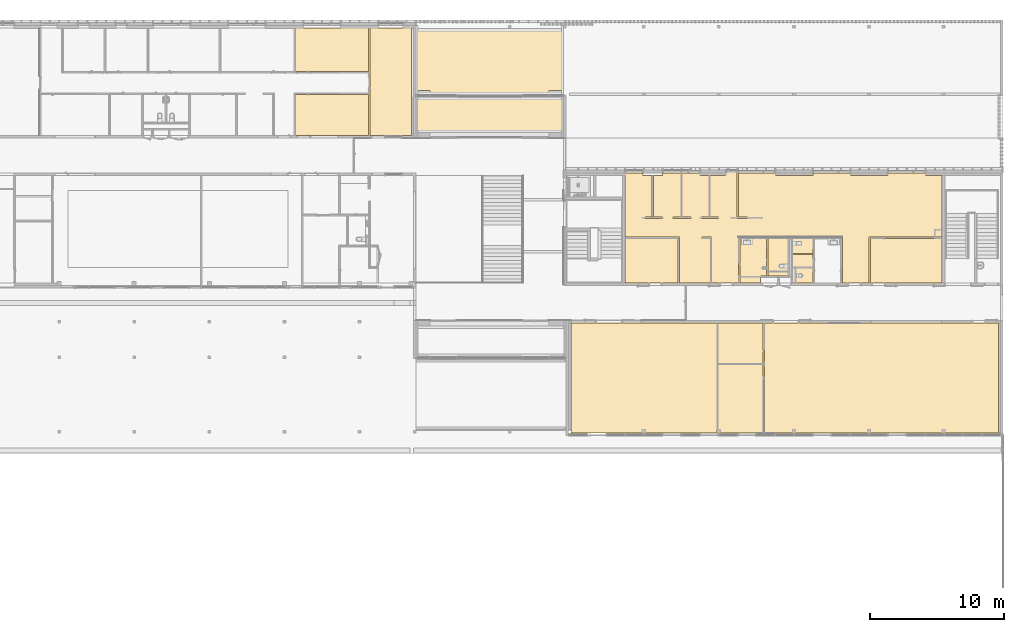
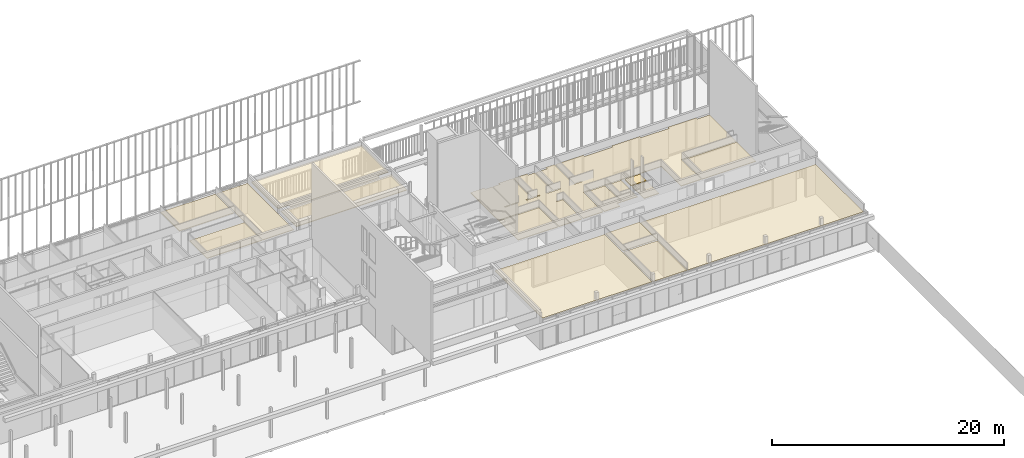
# One storey, part 233 of 240: 15 coverings.
"""IFC2X3 building model written with IfcOpenShell, lengths in centimetres."""

from ifc_helpers import new_model, entity, si_unit, converted_unit, derived_unit, direction, frame, frame_2d, origin, origin_2d_with_axis, place, context, subcontext, project, spatial, polyline, rectangle, outline, extrude, material, layer, layer_set, layer_usage, type_object, element, save


model = new_model("IFC2X3")

# Units and contexts
model_context = context("Model", 3, precision=0.001, world=origin(), true_north=direction((6.12303176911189e-17, 1.0)))
body_context = subcontext(model_context, "Body", "Model", "MODEL_VIEW")
ifc_project = project(units=[si_unit("LENGTHUNIT", "METRE", prefix="CENTI"), si_unit("AREAUNIT", "SQUARE_METRE"), si_unit("VOLUMEUNIT", "CUBIC_METRE"), converted_unit("PLANEANGLEUNIT", "DEGREE", entity("IfcRatioMeasure", 0.0174532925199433), si_unit("PLANEANGLEUNIT", "RADIAN"), dimensions=[0, 0, 0, 0, 0, 0, 0]), si_unit("MASSUNIT", "GRAM", prefix="KILO"), derived_unit("MASSDENSITYUNIT", [(si_unit("MASSUNIT", "GRAM", prefix="KILO"), 1), (si_unit("LENGTHUNIT", "METRE"), -3)]), si_unit("TIMEUNIT", "SECOND"), si_unit("FREQUENCYUNIT", "HERTZ"), si_unit("THERMODYNAMICTEMPERATUREUNIT", "DEGREE_CELSIUS"), derived_unit("THERMALTRANSMITTANCEUNIT", [(si_unit("MASSUNIT", "GRAM", prefix="KILO"), 1), (si_unit("THERMODYNAMICTEMPERATUREUNIT", "KELVIN"), -1), (si_unit("TIMEUNIT", "SECOND"), -3)]), derived_unit("VOLUMETRICFLOWRATEUNIT", [(si_unit("LENGTHUNIT", "METRE"), 3), (si_unit("TIMEUNIT", "SECOND"), -1)]), si_unit("ELECTRICCURRENTUNIT", "AMPERE"), si_unit("ELECTRICVOLTAGEUNIT", "VOLT"), si_unit("POWERUNIT", "WATT"), si_unit("FORCEUNIT", "NEWTON", prefix="KILO"), si_unit("ILLUMINANCEUNIT", "LUX"), si_unit("LUMINOUSFLUXUNIT", "LUMEN"), si_unit("LUMINOUSINTENSITYUNIT", "CANDELA"), derived_unit("USERDEFINED", [(si_unit("MASSUNIT", "GRAM", prefix="KILO"), -1), (si_unit("LENGTHUNIT", "METRE"), -2), (si_unit("TIMEUNIT", "SECOND"), 3), (si_unit("LUMINOUSFLUXUNIT", "LUMEN"), 1)]), derived_unit("LINEARVELOCITYUNIT", [(si_unit("LENGTHUNIT", "METRE"), 1), (si_unit("TIMEUNIT", "SECOND"), -1)]), si_unit("PRESSUREUNIT", "PASCAL"), derived_unit("USERDEFINED", [(si_unit("LENGTHUNIT", "METRE"), -2), (si_unit("MASSUNIT", "GRAM", prefix="KILO"), 1), (si_unit("TIMEUNIT", "SECOND"), -2)])], contexts=[model_context])

# Site, building, storey, space
site_placement = place(None, frame((-2781.94577612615, 7442.24238424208, 0.0)))
site = spatial("IfcSite", under=ifc_project, at=site_placement, Name="Default", CompositionType="ELEMENT")
building_placement = place(site_placement, origin())
building = spatial("IfcBuilding", under=site, at=building_placement, CompositionType="ELEMENT")
storey_placement = place(building_placement, origin())
storey = spatial("IfcBuildingStorey", under=building, at=storey_placement, Name="N00 - COO", CompositionType="ELEMENT", Elevation=0.0)
space_1_placement = place(building_placement, origin())
space_1 = spatial("IfcSpace", under=storey, at=space_1_placement, Name="C-6", CompositionType="ELEMENT", InteriorOrExteriorSpace="INTERNAL")

# Covering
ifc_material_1 = material(Name="00 - VIDE D'AIR")
ifc_layer_1 = layer(ifc_material_1, 5.7)
ifc_material_2 = material(Name="01 - Enduit/Plâtre - faux plafonds")
ifc_layer_2 = layer(ifc_material_2, 1.3)
ifc_layer_set = layer_set([ifc_layer_1, ifc_layer_2], Name="Plafond composé:11-Plafond 1BA13")
ifc_layer_usage_1 = layer_usage(ifc_layer_set, "AXIS3", "POSITIVE", 0.0)
covering_type_1 = type_object("IfcCoveringType", Name="Plafond composé:11-Plafond 1BA13", PredefinedType="CEILING")
covering_1_placement = place(space_1_placement, origin())
element("IfcCovering", 1, at=covering_1_placement, inside=space_1, type_object=covering_type_1, material=ifc_layer_usage_1, Name="Plafond composé:11-Plafond 1BA13", ObjectType="Plafond composé:11-Plafond 1BA13", PredefinedType="CEILING", context=body_context, shape_type="SweptSolid", body=[
    extrude(rectangle(XDim=325.0, YDim=544.000000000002, at=frame_2d((4.2632564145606e-13, -4.2632564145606e-13), x_axis=(1.0, 0.0))), frame((-5394.49987760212, -172.499999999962, 306.0), z_axis=(0.0, 0.0, 1.0), x_axis=(0.0, -1.0, 0.0)), (0.0, 0.0, 1.0), 6.99999999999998),
])

# Space
space_2_placement = place(building_placement, origin())
space_2 = spatial("IfcSpace", under=storey, at=space_2_placement, Name="C-9", CompositionType="ELEMENT", InteriorOrExteriorSpace="INTERNAL")

# Covering
ifc_layer_usage_2 = layer_usage(ifc_layer_set, "AXIS3", "POSITIVE", 0.0)
covering_type_2 = type_object("IfcCoveringType", Name="Plafond composé:11-Plafond 1BA13", PredefinedType="CEILING")
covering_2_placement = place(space_2_placement, origin())
element("IfcCovering", 2, at=covering_2_placement, inside=space_2, type_object=covering_type_2, material=ifc_layer_usage_2, Name="Plafond composé:11-Plafond 1BA13", ObjectType="Plafond composé:11-Plafond 1BA13", PredefinedType="CEILING", context=body_context, shape_type="SweptSolid", body=[
    extrude(rectangle(XDim=309.200000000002, YDim=800.048500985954, at=frame_2d((0.0, -3.12638803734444e-13), x_axis=(1.0, 0.0))), frame((-4957.89987760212, -410.024250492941, 306.0), z_axis=(0.0, 0.0, 1.0), x_axis=(-1.0, 0.0, 0.0)), (0.0, 0.0, 1.0), 6.99999999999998),
])

# Space
space_3_placement = place(building_placement, origin())
space_3 = spatial("IfcSpace", under=storey, at=space_3_placement, Name="C-7", CompositionType="ELEMENT", InteriorOrExteriorSpace="INTERNAL")

# Covering
ifc_layer_usage_3 = layer_usage(ifc_layer_set, "AXIS3", "POSITIVE", 0.0)
covering_type_3 = type_object("IfcCoveringType", Name="Plafond composé:11-Plafond 1BA13", PredefinedType="CEILING")
covering_3_placement = place(space_3_placement, origin())
element("IfcCovering", 3, at=covering_3_placement, inside=space_3, type_object=covering_type_3, material=ifc_layer_usage_3, Name="Plafond composé:11-Plafond 1BA13", ObjectType="Plafond composé:11-Plafond 1BA13", PredefinedType="CEILING", context=body_context, shape_type="SweptSolid", body=[
    extrude(rectangle(XDim=305.048500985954, YDim=544.000000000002, at=frame_2d((5.6843418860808e-14, 0.0), x_axis=(1.0, 0.0))), frame((-5394.49987760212, -657.524250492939, 306.0), z_axis=(0.0, 0.0, 1.0), x_axis=(0.0, 1.0, 0.0)), (0.0, 0.0, 1.0), 6.99999999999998),
])

# Space
space_4_placement = place(building_placement, origin())
space_4 = spatial("IfcSpace", under=storey, at=space_4_placement, Name="B-3", CompositionType="ELEMENT", InteriorOrExteriorSpace="INTERNAL")

# Covering
ifc_layer_usage_4 = layer_usage(ifc_layer_set, "AXIS3", "POSITIVE", 0.0)
covering_type_4 = type_object("IfcCoveringType", Name="Plafond composé:11-Plafond 1BA13", PredefinedType="CEILING")
covering_4_placement = place(space_4_placement, origin())
element("IfcCovering", 4, at=covering_4_placement, inside=space_4, type_object=covering_type_4, material=ifc_layer_usage_4, Name="Plafond composé:11-Plafond 1BA13", ObjectType="Plafond composé:11-Plafond 1BA13", PredefinedType="CEILING", context=body_context, shape_type="SweptSolid", body=[
    extrude(rectangle(XDim=335.799997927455, YDim=299.999999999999, at=frame_2d((2.1316282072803e-13, -2.27373675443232e-13), x_axis=(1.0, 0.0))), frame((-2347.0998786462, -2360.15656731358, 313.0)), (0.0, 0.0, 1.0), 6.99999999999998),
])

# Space
space_5_placement = place(building_placement, origin())
space_5 = spatial("IfcSpace", under=storey, at=space_5_placement, Name="C-4", CompositionType="ELEMENT", InteriorOrExteriorSpace="INTERNAL")

# Coverings
ifc_layer_usage_5 = layer_usage(ifc_layer_set, "AXIS3", "POSITIVE", 0.0)
covering_type_5 = type_object("IfcCoveringType", Name="Plafond composé:11-Plafond 1BA13", PredefinedType="CEILING")
covering_5_placement = place(space_5_placement, origin())
element("IfcCovering", 5, at=covering_5_placement, inside=space_5, type_object=covering_type_5, material=ifc_layer_usage_5, Name="Plafond composé:11-Plafond 1BA13", ObjectType="Plafond composé:11-Plafond 1BA13", PredefinedType="CEILING", context=body_context, shape_type="SweptSolid", body=[
    extrude(rectangle(XDim=330.079033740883, YDim=534.2, at=frame_2d((-6.3948846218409e-13, -2.27373675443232e-13), x_axis=(1.0, 0.0))), frame((-1112.39988284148, -1745.03951677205, 306.0), z_axis=(0.0, 0.0, 1.0), x_axis=(0.0, 1.0, 0.0)), (0.0, 0.0, 1.0), 6.99999999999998),
])
ifc_layer_usage_6 = layer_usage(ifc_layer_set, "AXIS3", "POSITIVE", 0.0)
covering_type_6 = type_object("IfcCoveringType", Name="Plafond composé:11-Plafond 1BA13", PredefinedType="CEILING")
covering_6_placement = place(building_placement, origin())
element("IfcCovering", 6, at=covering_6_placement, inside=storey, type_object=covering_type_6, material=ifc_layer_usage_6, Name="Plafond composé:11-Plafond 1BA13", ObjectType="Plafond composé:11-Plafond 1BA13", PredefinedType="CEILING", context=body_context, shape_type="SweptSolid", body=[
    extrude(outline(polyline([(36.4999999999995, -76.6930112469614), (81.5000000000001, -76.6930112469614), (81.5000000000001, 203.386022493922), (-118.0, 203.386022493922), (-118.0, -126.693011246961), (36.4999999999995, -126.693011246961), (36.4999999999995, -76.6930112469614)])), frame((-2235.99988284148, -1783.38602239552, 306.0)), (0.0, 0.0, 1.0), 6.99999999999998),
])
ifc_layer_usage_7 = layer_usage(ifc_layer_set, "AXIS3", "POSITIVE", 0.0)
covering_type_7 = type_object("IfcCoveringType", Name="Plafond composé:11-Plafond 1BA13", PredefinedType="CEILING")
covering_7_placement = place(building_placement, origin())
element("IfcCovering", 7, at=covering_7_placement, inside=storey, type_object=covering_type_7, material=ifc_layer_usage_7, Name="Plafond composé:11-Plafond 1BA13", ObjectType="Plafond composé:11-Plafond 1BA13", PredefinedType="CEILING", context=body_context, shape_type="SweptSolid", body=[
    extrude(rectangle(XDim=280.079033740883, YDim=150.0, at=frame_2d((-1.13686837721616e-13, 0.0), x_axis=(1.0, 0.0))), frame((-2069.49988284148, -1720.03951677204, 306.0), z_axis=(0.0, 0.0, 1.0), x_axis=(0.0, -1.0, 0.0)), (0.0, 0.0, 1.0), 6.99999999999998),
])

# Space
space_6_placement = place(building_placement, origin())
space_6 = spatial("IfcSpace", under=storey, at=space_6_placement, Name="C-5", CompositionType="ELEMENT", InteriorOrExteriorSpace="INTERNAL")

# Coverings
ifc_layer_usage_8 = layer_usage(ifc_layer_set, "AXIS3", "POSITIVE", 0.0)
covering_type_8 = type_object("IfcCoveringType", Name="Plafond composé:11-Plafond 1BA13", PredefinedType="CEILING")
covering_8_placement = place(space_6_placement, origin())
element("IfcCovering", 8, at=covering_8_placement, inside=space_6, type_object=covering_type_8, material=ifc_layer_usage_8, Name="Plafond composé:11-Plafond 1BA13", ObjectType="Plafond composé:11-Plafond 1BA13", PredefinedType="CEILING", context=body_context, shape_type="SweptSolid", body=[
    extrude(rectangle(XDim=149.999999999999, YDim=209.579033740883, at=frame_2d((-14.9999999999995, -11.9579033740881), x_axis=(1.0, 0.0))), frame((-1899.49988284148, -1817.24742014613, 306.0), z_axis=(0.0, 0.0, 1.0), x_axis=(-1.0, 0.0, 0.0)), (0.0, 0.0, 1.0), 6.99999999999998),
])
ifc_layer_usage_9 = layer_usage(ifc_layer_set, "AXIS3", "POSITIVE", 0.0)
covering_type_9 = type_object("IfcCoveringType", Name="Plafond composé:11-Plafond 1BA13", PredefinedType="CEILING")
covering_9_placement = place(space_6_placement, origin())
element("IfcCovering", 9, at=covering_9_placement, inside=space_6, type_object=covering_type_9, material=ifc_layer_usage_9, Name="Plafond composé:11-Plafond 1BA13", ObjectType="Plafond composé:11-Plafond 1BA13", PredefinedType="CEILING", context=body_context, shape_type="SweptSolid", body=[
    extrude(rectangle(XDim=110.5, YDim=149.999999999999, at=frame_2d((-1.06581410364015e-13, 1.06581410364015e-13), x_axis=(1.0, 0.0))), frame((-1884.49988284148, -1635.2499999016, 306.0), z_axis=(0.0, 0.0, 1.0), x_axis=(0.0, -1.0, 0.0)), (0.0, 0.0, 1.0), 6.99999999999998),
])

# Space
space_7_placement = place(building_placement, origin())
space_7 = spatial("IfcSpace", under=storey, at=space_7_placement, Name="C-14", CompositionType="ELEMENT", InteriorOrExteriorSpace="INTERNAL")

# Coverings
ifc_layer_usage_10 = layer_usage(ifc_layer_set, "AXIS3", "POSITIVE", 0.0)
covering_type_10 = type_object("IfcCoveringType", Name="Plafond composé:11-Plafond 1BA13", PredefinedType="CEILING")
covering_10_placement = place(space_7_placement, origin())
element("IfcCovering", 10, at=covering_10_placement, inside=space_7, type_object=covering_type_10, material=ifc_layer_usage_10, Name="Plafond composé:11-Plafond 1BA13", ObjectType="Plafond composé:11-Plafond 1BA13", PredefinedType="CEILING", context=body_context, shape_type="SweptSolid", body=[
    extrude(rectangle(XDim=330.079033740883, YDim=395.299999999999, at=origin_2d_with_axis()), frame((-3011.64988284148, -1745.03951677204, 306.0), z_axis=(0.0, 0.0, 1.0), x_axis=(0.0, 1.0, 0.0)), (0.0, 0.0, 1.0), 6.99999999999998),
])
ifc_layer_usage_11 = layer_usage(ifc_layer_set, "AXIS3", "POSITIVE", 0.0)
covering_type_11 = type_object("IfcCoveringType", Name="Plafond composé:11-Plafond 1BA13", PredefinedType="CEILING")
covering_11_placement = place(building_placement, origin())
element("IfcCovering", 11, at=covering_11_placement, inside=storey, type_object=covering_type_11, material=ifc_layer_usage_11, Name="Plafond composé:11-Plafond 1BA13", ObjectType="Plafond composé:11-Plafond 1BA13", PredefinedType="CEILING", context=body_context, shape_type="SweptSolid", body=[
    extrude(rectangle(XDim=821.056932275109, YDim=1743.89999684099, at=frame_2d((20.105693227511, 174.389999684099), x_axis=(1.0, 0.0))), frame((-1471.63988094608, -2600.57934022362, 306.0), z_axis=(0.0, 0.0, 1.0), x_axis=(0.0, -1.0, 0.0)), (0.0, 0.0, 1.0), 6.99999999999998),
    extrude(rectangle(XDim=335.799997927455, YDim=511.056932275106, at=frame_2d((0.0, 2.1316282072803e-13), x_axis=(1.0, 0.0))), frame((-2347.0998786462, -2775.68503345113, 306.0), z_axis=(0.0, 0.0, 1.0), x_axis=(-1.0, 0.0, 0.0)), (0.0, 0.0, 1.0), 6.99999999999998),
])
ifc_layer_usage_12 = layer_usage(ifc_layer_set, "AXIS3", "POSITIVE", 0.0)
covering_type_12 = type_object("IfcCoveringType", Name="Plafond composé:11-Plafond 1BA13", PredefinedType="CEILING")
covering_12_placement = place(building_placement, origin())
element("IfcCovering", 12, at=covering_12_placement, inside=storey, type_object=covering_type_12, material=ifc_layer_usage_12, Name="Plafond composé:11-Plafond 1BA13", ObjectType="Plafond composé:11-Plafond 1BA13", PredefinedType="CEILING", context=body_context, shape_type="SweptSolid", body=[
    extrude(outline(polyline([(-808.687879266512, 217.114027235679), (-808.687879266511, -262.885972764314), (-673.887876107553, -262.885972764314), (-673.887876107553, -242.885972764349), (-606.887876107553, -242.885972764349), (-606.887876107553, 67.1140272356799), (-660.38787926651, 67.1140272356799), (-660.38787926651, 77.1140272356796), (-530.38787926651, 77.1140272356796), (-530.38787926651, 67.1140272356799), (-596.887876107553, 67.1140272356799), (-596.887876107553, -242.885972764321), (-528.687879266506, -242.885972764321), (-528.687879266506, -262.885972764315), (-392.687879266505, -262.885972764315), (-392.687879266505, 67.1140272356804), (-450.387879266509, 67.1140272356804), (-450.387879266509, 77.1140272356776), (-316.88787926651, 77.1140272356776), (-316.88787926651, 67.1140272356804), (-382.687879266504, 67.1140272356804), (-382.687879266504, -262.885972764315), (-248.687879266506, -262.885972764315), (-248.687879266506, -242.885972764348), (-183.687879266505, -242.885972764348), (-183.687879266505, 67.114027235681), (-240.387879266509, 67.114027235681), (-240.387879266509, 77.1140272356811), (-110.387879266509, 77.1140272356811), (-110.387879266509, 67.1140272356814), (-173.687879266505, 67.1140272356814), (-173.687879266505, -242.885972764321), (-58.6878792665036, -242.885972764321), (-58.6878792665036, -267.88597276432), (26.1121238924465, -267.88597276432), (26.1121238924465, 77.1140272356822), (104.612120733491, 77.1140272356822), (104.612120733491, 67.1140272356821), (36.1121238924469, 67.1140272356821), (36.1121238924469, -262.885972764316), (311.312120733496, -262.885972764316), (311.312120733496, -242.885972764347), (591.312120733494, -242.885972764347), (591.312120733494, -262.885972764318), (871.312120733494, -262.885972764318), (871.312120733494, -242.885972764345), (1151.31212073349, -242.885972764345), (1151.31212073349, -262.88597276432), (1431.31212073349, -262.88597276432), (1431.31212073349, -242.88597276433), (1555.31212073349, -242.88597276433), (1555.31212073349, 217.114027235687), (1011.11212073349, 217.114027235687), (1011.11212073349, 557.193060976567), (811.112120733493, 557.193060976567), (811.112120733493, 217.11402723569), (36.6121207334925, 217.11402723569), (36.6121207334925, 557.193060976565), (-163.387879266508, 557.193060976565), (-163.387879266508, 217.114027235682), (-233.387879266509, 217.114027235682), (-233.387879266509, 227.114027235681), (-173.387879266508, 227.114027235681), (-173.387879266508, 557.193060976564), (-403.387879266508, 557.19306097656), (-403.387879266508, 217.114027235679), (-808.687879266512, 217.114027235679)])), frame((-2400.61200357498, -1352.88597266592, 306.0), z_axis=(0.0, 0.0, -1.0), x_axis=(1.0, 0.0, 0.0)), (0.0, 0.0, -1.0), 6.99999999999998),
])
ifc_layer_usage_13 = layer_usage(ifc_layer_set, "AXIS3", "POSITIVE", 0.0)
covering_type_13 = type_object("IfcCoveringType", Name="Plafond composé:11-Plafond 1BA13", PredefinedType="CEILING")
covering_13_placement = place(building_placement, origin())
element("IfcCovering", 13, at=covering_13_placement, inside=storey, type_object=covering_type_13, material=ifc_layer_usage_13, Name="Plafond composé:11-Plafond 1BA13", ObjectType="Plafond composé:11-Plafond 1BA13", PredefinedType="CEILING", context=body_context, shape_type="SweptSolid", body=[
    extrude(rectangle(XDim=1089.20000207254, YDim=820.156932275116, at=frame_2d((108.920000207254, 17.6156932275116), x_axis=(1.0, 0.0))), frame((-2960.67987843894, -2602.61934022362, 306.0), z_axis=(0.0, 0.0, 1.0), x_axis=(-1.0, 0.0, 0.0)), (0.0, 0.0, 1.0), 6.99999999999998),
])

# Space
space_8_placement = place(building_placement, origin())
space_8 = spatial("IfcSpace", under=storey, at=space_8_placement, Name="F-1", CompositionType="ELEMENT", InteriorOrExteriorSpace="INTERNAL")

# Covering
ifc_layer_usage_14 = layer_usage(ifc_layer_set, "AXIS3", "POSITIVE", 0.0)
covering_type_14 = type_object("IfcCoveringType", Name="Plafond composé:11-Plafond 1BA13", PredefinedType="CEILING")
covering_14_placement = place(space_8_placement, origin())
element("IfcCovering", 14, at=covering_14_placement, inside=space_8, type_object=covering_type_14, material=ifc_layer_usage_14, Name="Plafond composé:11-Plafond 1BA13", ObjectType="Plafond composé:11-Plafond 1BA13", PredefinedType="CEILING", context=body_context, shape_type="SweptSolid", body=[
    extrude(rectangle(XDim=267.499999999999, YDim=1099.99999791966, at=frame_2d((44.583333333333, -0.666667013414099), x_axis=(1.0, 0.0))), frame((-4218.66654565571, -700.881834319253, 313.0), z_axis=(0.0, 0.0, 1.0), x_axis=(0.0, 1.0, 0.0)), (0.0, 0.0, 1.0), 6.99999999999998),
])

# Space
space_9_placement = place(building_placement, origin())
space_9 = spatial("IfcSpace", under=storey, at=space_9_placement, Name="H-2 / H-4", CompositionType="ELEMENT", InteriorOrExteriorSpace="INTERNAL")

# Covering
ifc_layer_usage_15 = layer_usage(ifc_layer_set, "AXIS3", "POSITIVE", 0.0)
covering_type_15 = type_object("IfcCoveringType", Name="Plafond composé:11-Plafond 1BA13", PredefinedType="CEILING")
covering_15_placement = place(space_9_placement, origin())
element("IfcCovering", 15, at=covering_15_placement, inside=space_9, type_object=covering_type_15, material=ifc_layer_usage_15, Name="Plafond composé:11-Plafond 1BA13", ObjectType="Plafond composé:11-Plafond 1BA13", PredefinedType="CEILING", context=body_context, shape_type="SweptSolid", body=[
    extrude(outline(polyline([(-107.137125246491, -551.0), (353.411375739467, -551.0), (353.411375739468, 548.999998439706), (-107.137125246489, 548.999998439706), (-107.137125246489, 443.757045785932), (-139.137125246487, 443.757045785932), (-139.137125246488, -441.757044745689), (-107.137125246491, -441.757044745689), (-107.137125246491, -551.0)])), frame((-4218.99987916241, -368.411375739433, 313.0), z_axis=(0.0, 0.0, 1.0), x_axis=(0.0, 1.0, 0.0)), (0.0, 0.0, 1.0), 6.99999999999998),
])

save(model, "model.ifc")
